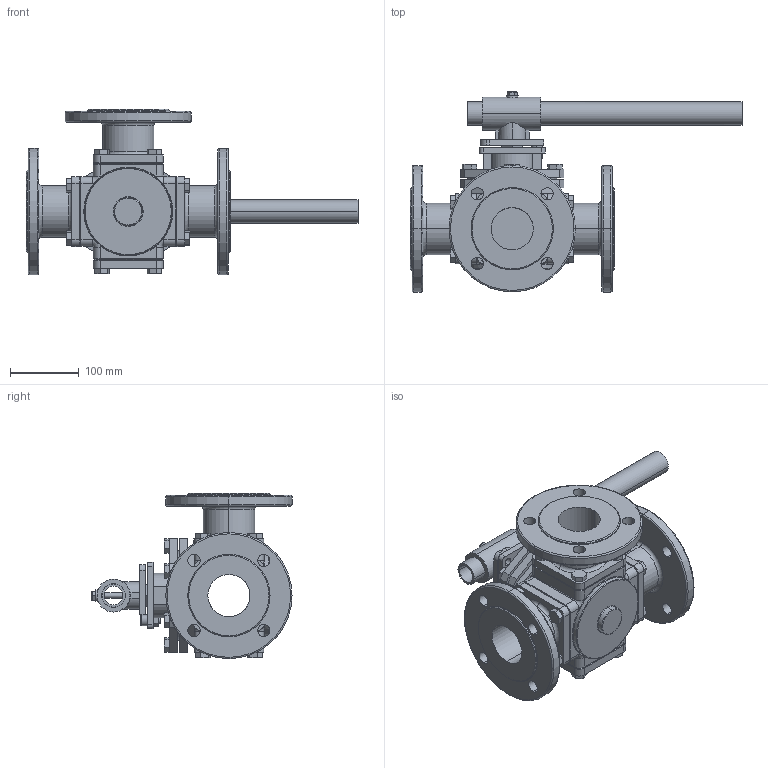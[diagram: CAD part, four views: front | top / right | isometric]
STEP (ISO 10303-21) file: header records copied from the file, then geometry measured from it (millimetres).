
FILE_DESCRIPTION (( 'STEP AP214' ), '1' );
FILE_NAME ('S316D DN65 HB.step', '2011-04-20T13:25:39', ( '' ), ( '' ), 'SwSTEP 2.0', 'SolidWorks 2011', '' );
FILE_SCHEMA (( 'AUTOMOTIVE_DESIGN' ));
Length unit declared in the file: millimetre
Products named in the file (9): S316D Handgreep Stang DN65; hex bolt gradec_din_ISO 4016 - M8 x 80 x 22-NN; S316D Handgreep T-stuk DN65-80-100; hex nut style 1 gradeab_din_Hexagon Nut ISO 4032 - M10 - D - N; socket head cap screw_din_DIN 912 M10 x 20 --- 20N; S316D Flange end DN65; S316D Blindflens DN65; S316D KK DN65 PN16; S316D DN65 HB
Assembly tree (10 placements, depth 2):
  S316D DN65 HB
    S316D Handgreep T-stuk DN65-80-100
    hex bolt gradec_din_ISO 4016 - M8 x 80 x 22-NN
    hex nut style 1 gradeab_din_Hexagon Nut ISO 4032 - M10 - D - N
    socket head cap screw_din_DIN 912 M10 x 20 --- 20N
    S316D Flange end DN65  x3
    S316D Blindflens DN65
    S316D KK DN65 PN16
    S316D Handgreep Stang DN65
Bounding box: 484 x 291.57 x 241 mm (x, y, z)
Volume: 4312421.4 mm3; surface area: 673800.8 mm2
Topology: 10 solids, 10 shells, 634 faces, 1540 edges, 977 vertices
Faces by surface type: plane 349, cylinder 180, cone 54, torus 47, bspline 4
Entity records: 15554 total; most frequent: CARTESIAN_POINT 3541, DIRECTION 2446, ORIENTED_EDGE 2352, EDGE_CURVE 1176, AXIS2_PLACEMENT_3D 846, LINE 754, VECTOR 754, VERTEX_POINT 745
